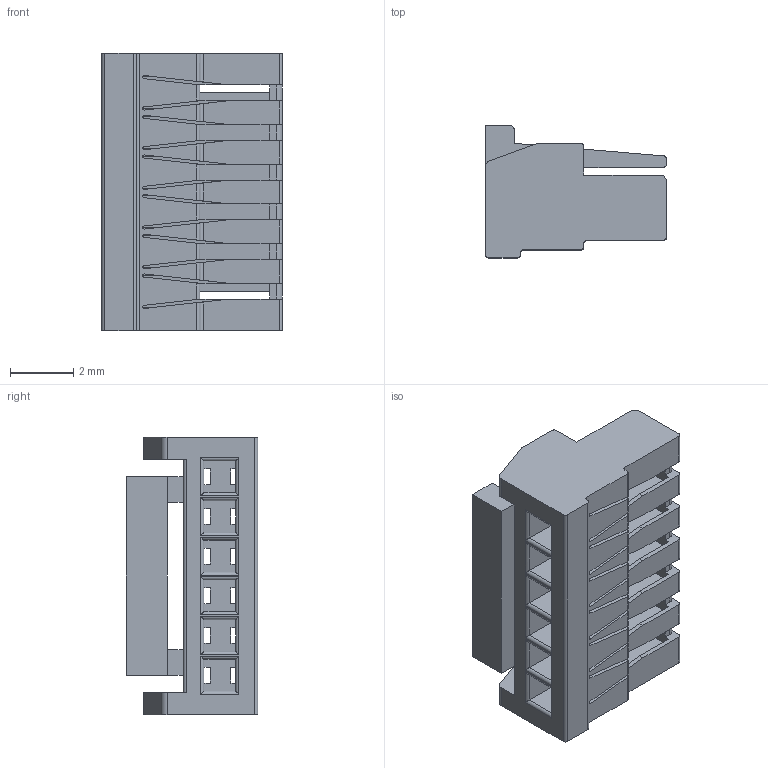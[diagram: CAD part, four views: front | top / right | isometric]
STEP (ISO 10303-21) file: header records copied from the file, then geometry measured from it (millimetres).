
FILE_DESCRIPTION(/* description */ (''),/* implementation_level */ '2;1');
FILE_NAME(/* name */ 'C:\Users\PaulT\Desktop\GrabCAD\JST_GHR-6V-S.stp',/* time_stamp */ '2019-01-29T14:12:35+01:00',/* author */ ('PaulT'),/* organization */ (''),/* preprocessor_version */ 'ST-DEVELOPER v17.2',/* originating_system */ 'Autodesk Inventor 2019',/* authorisation */ '');
FILE_SCHEMA (('AUTOMOTIVE_DESIGN { 1 0 10303 214 3 1 1 }'));
Length unit declared in the file: millimetre
Products named in the file (1): JST_GHR-6V-S
Bounding box: 5.7 x 4.15 x 8.75 mm (x, y, z)
Volume: 87.1 mm3; surface area: 402.6 mm2
Topology: 1 solids, 1 shells, 297 faces, 897 edges, 582 vertices
Faces by surface type: plane 191, cylinder 106
Entity records: 10080 total; most frequent: ORIENTED_EDGE 1794, CARTESIAN_POINT 1777, DIRECTION 1693, EDGE_CURVE 897, LINE 697, VECTOR 697, VERTEX_POINT 582, AXIS2_PLACEMENT_3D 498
